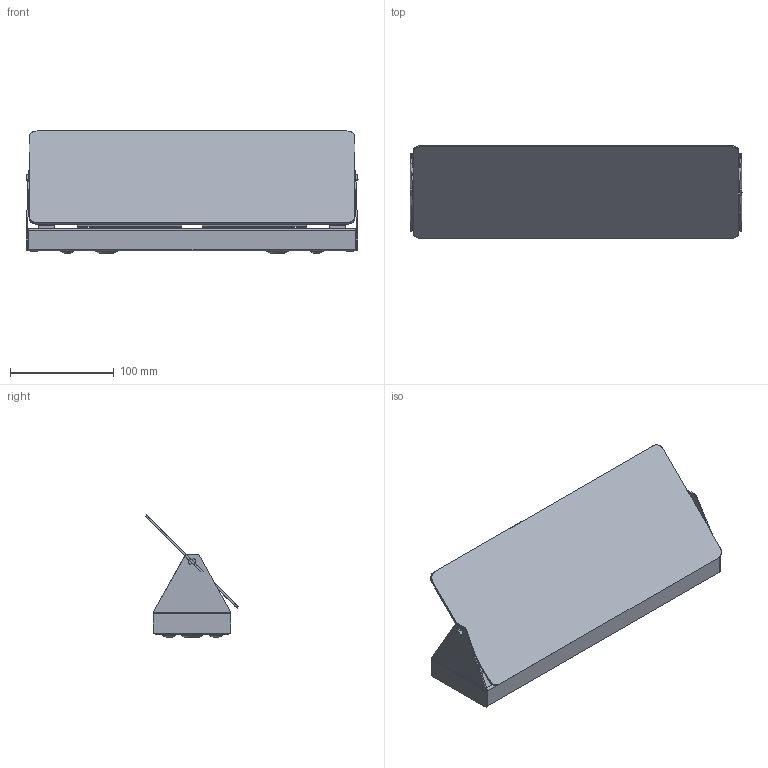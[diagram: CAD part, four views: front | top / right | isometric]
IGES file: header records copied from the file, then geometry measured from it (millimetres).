
Start section: SolidWorks IGES file using analytic representation for surfaces
Global section: file name: C:\Users\tungari.NEMOLIGHTING\Desktop\3D\WALL\3D_APPLIQUE_A_VOLET_PIVOTANT_DOUBLE\DEF\3D_APPLIQUE_A_VOLET_PIVOTANT_DOUBLE.IGS; native system: SolidWorks 2016; preprocessor: SolidWorks 2016; author: tungari; date: 180323.103055; units: millimetre
Bounding box: 320 x 89.8 x 117.6 mm (x, y, z)
Surface area: 291137 mm2 (no closed solid volume)
Topology: 0 solids, 0 shells, 382 faces, 3774 edges, 3774 vertices
Faces by surface type: bspline 232, revolution 150
